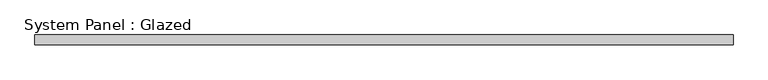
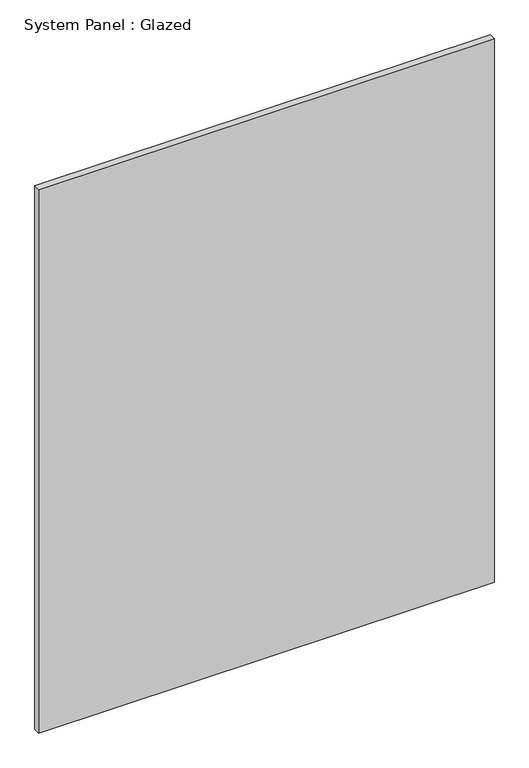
"""IFC4 building model written with IfcOpenShell, lengths in millimetres: plate geometry, System Panel : Glazed."""

from ifc_helpers import new_model, si_unit, origin, origin_with_axes, place, context, project, spatial, polyline, outline, extrude, source, transform, mapped, element, save


def system_panel_glazed_2a972b71(model_context):
    return source(origin(), model_context, "Body", "SweptSolid", [
        extrude(outline(polyline([(907.033577, 19.05), (-907.033577, 19.05), (-907.033577, 44.45), (907.033577, 44.45), (907.033577, 19.05)])), origin_with_axes(), (0.0, 0.0, 1.0), 2286.0),
    ])


if __name__ == "__main__":
    model = new_model("IFC4")
    model_context = context("Model", 3, world=origin())
    ifc_project = project(units=[si_unit("LENGTHUNIT", "METRE", prefix="MILLI")], contexts=[model_context])
    site = spatial("IfcSite", under=ifc_project)
    building = spatial("IfcBuilding", under=site)
    placement = place(None, origin())
    system_panel_glazed_shape = system_panel_glazed_2a972b71(model_context)
    element("IfcPlate", 1, ObjectType="System Panel : Glazed", at=placement, inside=building, context=model_context, shape_type="MappedRepresentation", body=[
        mapped(system_panel_glazed_shape, transform((0.0, 0.0, 0.0), x_axis=(1.0, 0.0, 0.0), y_axis=(0.0, 1.0, 0.0), z_axis=(0.0, 0.0, 1.0))),
    ])
    save(model, "model.ifc")
